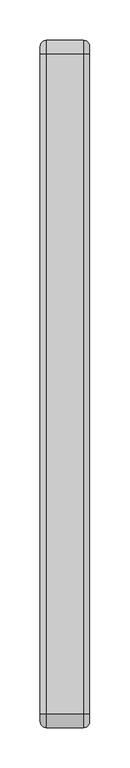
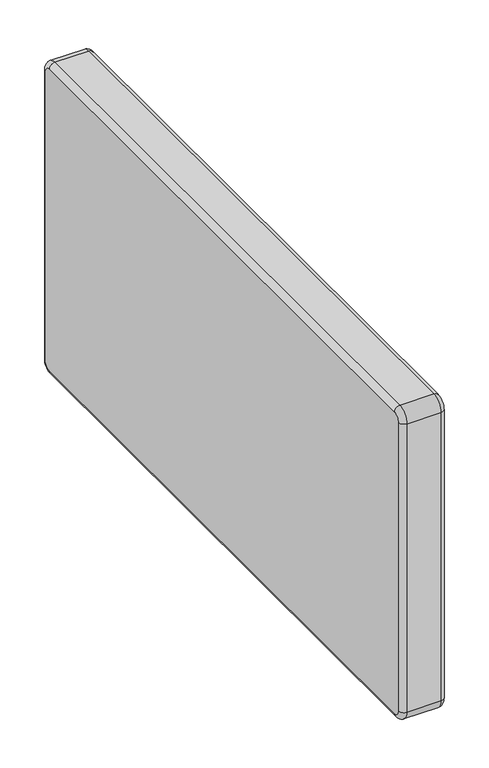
"""IFC4 building model written with IfcOpenShell, lengths in millimetres: furniture geometry, Fredericia - EJ220 Sofa 3 seaters 67 - 2233 : Fredericia - EJ220 Sofa 3 seaters 67 - 2233."""

from ifc_helpers import new_model, si_unit, point, frame, origin, place, context, project, spatial, circle_curve, ellipse_curve, trimmed, source, transform, mapped, element, save
from ifc_brep_helpers import plane_surface, cylinder_surface, revolved_surface, advanced_brep


def furniture_6027f4fa(model_context):
    return source(origin(), model_context, "Body", "AdvancedBrep", [
        advanced_brep(
        [(998.6320736, 7.0681487, 207.3057774), (998.6320736, 7.0681487, 623.8042203), (998.6320736, 16.6681487, 633.4042203), (998.6320736, 833.2580585, 633.4042203), (998.6320736, 842.8580585, 623.8042203), (998.6320736, 842.8580585, 207.3057774), (998.6320736, 833.2580585, 197.7057774), (998.6320736, 16.6681487, 197.7057774), (1060.0578822, 7.0681487, 623.8042203), (1060.0578822, 7.0681487, 207.3057774), (1060.0578822, 16.6681487, 197.7057774), (1060.0578822, 833.2580585, 197.7057774), (1060.0578822, 842.8580585, 207.3057774), (1060.0578822, 842.8580585, 623.8042203), (1060.0578822, 833.2580585, 633.4042203), (1060.0578822, 16.6681487, 633.4042203), (1006.1320736, -0.4318513, 207.3057774), (1006.1320736, -0.4318513, 623.8042203), (1052.5578822, -0.4318513, 207.3057774), (1052.5578822, -0.4318513, 623.8042203), (1006.1320736, 16.6681487, 640.9042203), (1006.1320736, 833.2580585, 640.9042203), (1052.5578822, 16.6681487, 640.9042203), (1052.5578822, 833.2580585, 640.9042203), (1006.1320736, 850.3580585, 623.8042203), (1006.1320736, 850.3580585, 207.3057774), (1052.5578822, 850.3580585, 623.8042203), (1052.5578822, 850.3580585, 207.3057774), (1006.1320736, 833.2580585, 190.2057774), (1006.1320736, 16.6681487, 190.2057774), (1052.5578822, 833.2580585, 190.2057774), (1052.5578822, 16.6681487, 190.2057774)],
        [
            (0, 1),
            (1, 2, circle_curve(frame((998.6320736, 16.6681487, 623.8042203), z_axis=(-1.0, 0.0, 0.0), x_axis=(0.0, -1.0, 0.0)), 9.6)),
            (2, 3),
            (3, 4, circle_curve(frame((998.6320736, 833.2580585, 623.8042203), z_axis=(-1.0, 0.0, 0.0), x_axis=(0.0, 0.0, 1.0)), 9.6)),
            (4, 5),
            (5, 6, circle_curve(frame((998.6320736, 833.2580585, 207.3057774), z_axis=(-1.0, 0.0, 0.0), x_axis=(0.0, 1.0, 0.0)), 9.6)),
            (6, 7),
            (7, 0, circle_curve(frame((998.6320736, 16.6681487, 207.3057774), z_axis=(-1.0, 0.0, 0.0), x_axis=(0.0, 0.0, -1.0)), 9.6)),
            (8, 9),
            (9, 10, circle_curve(frame((1060.0578822, 16.6681487, 207.3057774), z_axis=(1.0, 0.0, 0.0), x_axis=(0.0, 0.0, -1.0)), 9.6)),
            (10, 11),
            (11, 12, circle_curve(frame((1060.0578822, 833.2580585, 207.3057774), z_axis=(1.0, 0.0, 0.0), x_axis=(0.0, 1.0, 0.0)), 9.6)),
            (12, 13),
            (13, 14, circle_curve(frame((1060.0578822, 833.2580585, 623.8042203), z_axis=(1.0, 0.0, 0.0), x_axis=(0.0, 0.0, 1.0)), 9.6)),
            (14, 15),
            (15, 8, circle_curve(frame((1060.0578822, 16.6681487, 623.8042203), z_axis=(1.0, 0.0, 0.0), x_axis=(0.0, -1.0, 0.0)), 9.6)),
            (0, 16, circle_curve(frame((1006.1320736, 7.0681487, 207.3057774), z_axis=(0.0, 0.0, 1.0), x_axis=(0.0, 1.0, 0.0)), 7.5)),
            (16, 17),
            (17, 1, circle_curve(frame((1006.1320736, 7.0681487, 623.8042203), z_axis=(0.0, 0.0, -1.0), x_axis=(0.0, 1.0, 0.0)), 7.5)),
            (16, 18),
            (18, 19),
            (19, 17),
            (18, 9, circle_curve(frame((1052.5578822, 7.0681487, 207.3057774), z_axis=(0.0, 0.0, 1.0), x_axis=(0.0, 1.0, 0.0)), 7.5)),
            (8, 19, circle_curve(frame((1052.5578822, 7.0681487, 623.8042203), z_axis=(0.0, 0.0, -1.0), x_axis=(0.0, 1.0, 0.0)), 7.5)),
            (2, 20, circle_curve(frame((1006.1320736, 16.6681487, 633.4042203), z_axis=(0.0, 1.0, 0.0), x_axis=(0.0, 0.0, -1.0)), 7.5)),
            (20, 21),
            (21, 3, circle_curve(frame((1006.1320736, 833.2580585, 633.4042203), z_axis=(0.0, -1.0, 0.0), x_axis=(0.0, 0.0, -1.0)), 7.5)),
            (20, 22),
            (22, 23),
            (23, 21),
            (22, 15, circle_curve(frame((1052.5578822, 16.6681487, 633.4042203), z_axis=(0.0, 1.0, 0.0), x_axis=(0.0, 0.0, -1.0)), 7.5)),
            (14, 23, circle_curve(frame((1052.5578822, 833.2580585, 633.4042203), z_axis=(0.0, -1.0, 0.0), x_axis=(0.0, 0.0, -1.0)), 7.5)),
            (4, 24, circle_curve(frame((1006.1320736, 842.8580585, 623.8042203), z_axis=(0.0, 0.0, -1.0), x_axis=(0.0, -1.0, 0.0)), 7.5)),
            (24, 25),
            (25, 5, circle_curve(frame((1006.1320736, 842.8580585, 207.3057774), z_axis=(0.0, 0.0, 1.0), x_axis=(0.0, -1.0, 0.0)), 7.5)),
            (24, 26),
            (26, 27),
            (27, 25),
            (26, 13, circle_curve(frame((1052.5578822, 842.8580585, 623.8042203), z_axis=(0.0, 0.0, -1.0), x_axis=(0.0, -1.0, 0.0)), 7.5)),
            (12, 27, circle_curve(frame((1052.5578822, 842.8580585, 207.3057774), z_axis=(0.0, 0.0, 1.0), x_axis=(0.0, -1.0, 0.0)), 7.5)),
            (6, 28, circle_curve(frame((1006.1320736, 833.2580585, 197.7057774), z_axis=(0.0, -1.0, 0.0), x_axis=(0.0, 0.0, 1.0)), 7.5)),
            (28, 29),
            (29, 7, circle_curve(frame((1006.1320736, 16.6681487, 197.7057774), z_axis=(0.0, 1.0, 0.0), x_axis=(0.0, 0.0, 1.0)), 7.5)),
            (28, 30),
            (30, 31),
            (31, 29),
            (30, 11, circle_curve(frame((1052.5578822, 833.2580585, 197.7057774), z_axis=(0.0, -1.0, 0.0), x_axis=(0.0, 0.0, 1.0)), 7.5)),
            (10, 31, circle_curve(frame((1052.5578822, 16.6681487, 197.7057774), z_axis=(0.0, 1.0, 0.0), x_axis=(0.0, 0.0, 1.0)), 7.5)),
            (29, 16, circle_curve(frame((1006.1320736, 16.6681487, 207.3057774), z_axis=(-1.0, 0.0, 0.0), x_axis=(0.0, 0.0, -1.0)), 17.1)),
            (31, 18, circle_curve(frame((1052.5578822, 16.6681487, 207.3057774), z_axis=(-1.0, 0.0, 0.0), x_axis=(0.0, 0.0, -1.0)), 17.1)),
            (17, 20, circle_curve(frame((1006.1320736, 16.6681487, 623.8042203), z_axis=(-1.0, 0.0, 0.0), x_axis=(0.0, -1.0, 0.0)), 17.1)),
            (19, 22, circle_curve(frame((1052.5578822, 16.6681487, 623.8042203), z_axis=(-1.0, 0.0, 0.0), x_axis=(0.0, -1.0, 0.0)), 17.1)),
            (21, 24, circle_curve(frame((1006.1320736, 833.2580585, 623.8042203), z_axis=(-1.0, 0.0, 0.0), x_axis=(0.0, 0.0, 1.0)), 17.1)),
            (23, 26, circle_curve(frame((1052.5578822, 833.2580585, 623.8042203), z_axis=(-1.0, 0.0, 0.0), x_axis=(0.0, 0.0, 1.0)), 17.1)),
            (25, 28, circle_curve(frame((1006.1320736, 833.2580585, 207.3057774), z_axis=(-1.0, 0.0, 0.0), x_axis=(0.0, 1.0, 0.0)), 17.1)),
            (27, 30, circle_curve(frame((1052.5578822, 833.2580585, 207.3057774), z_axis=(-1.0, 0.0, 0.0), x_axis=(0.0, 1.0, 0.0)), 17.1)),
        ],
        [
            plane_surface(frame((998.6320736, 16.6681487, 621.7042203), z_axis=(-1.0, 0.0, 0.0), x_axis=(0.0, -1.0, 0.0))),
            plane_surface(frame((1060.0578822, 16.6681487, 621.7042203), z_axis=(1.0, 0.0, 0.0), x_axis=(0.0, 1.0, 0.0))),
            cylinder_surface(frame((1006.1320736, 7.0681487, 207.3057774), z_axis=(0.0, 0.0, -1.0), x_axis=(0.0, 1.0, 0.0)), 7.5),
            plane_surface(frame((1052.5578822, -0.4318513, 207.3057774), z_axis=(0.0, -1.0, 0.0), x_axis=(0.0, 0.0, 1.0))),
            cylinder_surface(frame((1052.5578822, 7.0681487, 207.3057774), z_axis=(0.0, 0.0, -1.0), x_axis=(0.0, 1.0, 0.0)), 7.5),
            cylinder_surface(frame((1006.1320736, 16.6681487, 633.4042203), z_axis=(0.0, -1.0, 0.0), x_axis=(0.0, 0.0, -1.0)), 7.5),
            plane_surface(frame((1052.5578822, 16.6681487, 640.9042203), z_axis=(0.0, 0.0, 1.0), x_axis=(0.0, 1.0, 0.0))),
            cylinder_surface(frame((1052.5578822, 16.6681487, 633.4042203), z_axis=(0.0, -1.0, 0.0), x_axis=(0.0, 0.0, -1.0)), 7.5),
            cylinder_surface(frame((1006.1320736, 842.8580585, 623.8042203), z_axis=(0.0, 0.0, 1.0), x_axis=(0.0, -1.0, 0.0)), 7.5),
            plane_surface(frame((1052.5578822, 850.3580585, 623.8042203), z_axis=(0.0, 1.0, 0.0), x_axis=(0.0, 0.0, -1.0))),
            cylinder_surface(frame((1052.5578822, 842.8580585, 623.8042203), z_axis=(0.0, 0.0, 1.0), x_axis=(0.0, -1.0, 0.0)), 7.5),
            cylinder_surface(frame((1006.1320736, 833.2580585, 197.7057774), z_axis=(0.0, 1.0, 0.0), x_axis=(0.0, 0.0, 1.0)), 7.5),
            plane_surface(frame((1052.5578822, 833.2580585, 190.2057774), z_axis=(0.0, 0.0, -1.0), x_axis=(0.0, -1.0, 0.0))),
            cylinder_surface(frame((1052.5578822, 833.2580585, 197.7057774), z_axis=(0.0, 1.0, 0.0), x_axis=(0.0, 0.0, 1.0)), 7.5),
            revolved_surface(trimmed(ellipse_curve(frame((1006.1320736, 16.6681487, 197.7057774), z_axis=(0.0, 1.0, 0.0), x_axis=(0.0, 0.0, 1.0)), 7.5, 7.5), [point((1006.1320736, 16.6681487, 190.2057774))], [point((998.6320736, 16.6681487, 197.7057774))], True, "CARTESIAN"), (1060.0578822, 16.6681487, 207.3057774), (-1.0, 0.0, 0.0)),
            cylinder_surface(frame((1060.0578822, 16.6681487, 207.3057774), z_axis=(-1.0, 0.0, 0.0), x_axis=(0.0, 0.0, -1.0)), 17.1),
            revolved_surface(trimmed(ellipse_curve(frame((1052.5578822, 16.6681487, 197.7057774), z_axis=(0.0, 1.0, 0.0), x_axis=(0.0, 0.0, 1.0)), 7.5, 7.5), [point((1060.0578822, 16.6681487, 197.7057774))], [point((1052.5578822, 16.6681487, 190.2057774))], True, "CARTESIAN"), (1060.0578822, 16.6681487, 207.3057774), (-1.0, 0.0, 0.0)),
            revolved_surface(trimmed(ellipse_curve(frame((1006.1320736, 7.0681487, 623.8042203), z_axis=(0.0, 0.0, -1.0), x_axis=(0.0, 1.0, 0.0)), 7.5, 7.5), [point((1006.1320736, -0.4318513, 623.8042203))], [point((998.6320736, 7.0681487, 623.8042203))], True, "CARTESIAN"), (1060.0578822, 16.6681487, 623.8042203), (-1.0, 0.0, 0.0)),
            cylinder_surface(frame((1060.0578822, 16.6681487, 623.8042203), z_axis=(-1.0, 0.0, 0.0), x_axis=(0.0, -1.0, 0.0)), 17.1),
            revolved_surface(trimmed(ellipse_curve(frame((1052.5578822, 7.0681487, 623.8042203), z_axis=(0.0, 0.0, -1.0), x_axis=(0.0, 1.0, 0.0)), 7.5, 7.5), [point((1060.0578822, 7.0681487, 623.8042203))], [point((1052.5578822, -0.4318513, 623.8042203))], True, "CARTESIAN"), (1060.0578822, 16.6681487, 623.8042203), (-1.0, 0.0, 0.0)),
            revolved_surface(trimmed(ellipse_curve(frame((1006.1320736, 833.2580585, 633.4042203), z_axis=(0.0, -1.0, 0.0), x_axis=(0.0, 0.0, -1.0)), 7.5, 7.5), [point((1006.1320736, 833.2580585, 640.9042203))], [point((998.6320736, 833.2580585, 633.4042203))], True, "CARTESIAN"), (1060.0578822, 833.2580585, 623.8042203), (-1.0, 0.0, 0.0)),
            cylinder_surface(frame((1060.0578822, 833.2580585, 623.8042203), z_axis=(-1.0, 0.0, 0.0), x_axis=(0.0, 0.0, 1.0)), 17.1),
            revolved_surface(trimmed(ellipse_curve(frame((1052.5578822, 833.2580585, 633.4042203), z_axis=(0.0, -1.0, 0.0), x_axis=(0.0, 0.0, -1.0)), 7.5, 7.5), [point((1060.0578822, 833.2580585, 633.4042203))], [point((1052.5578822, 833.2580585, 640.9042203))], True, "CARTESIAN"), (1060.0578822, 833.2580585, 623.8042203), (-1.0, 0.0, 0.0)),
            revolved_surface(trimmed(ellipse_curve(frame((1006.1320736, 842.8580585, 207.3057774), z_axis=(0.0, 0.0, 1.0), x_axis=(0.0, -1.0, 0.0)), 7.5, 7.5), [point((1006.1320736, 850.3580585, 207.3057774))], [point((998.6320736, 842.8580585, 207.3057774))], True, "CARTESIAN"), (1060.0578822, 833.2580585, 207.3057774), (-1.0, 0.0, 0.0)),
            cylinder_surface(frame((1060.0578822, 833.2580585, 207.3057774), z_axis=(-1.0, 0.0, 0.0), x_axis=(0.0, 1.0, 0.0)), 17.1),
            revolved_surface(trimmed(ellipse_curve(frame((1052.5578822, 842.8580585, 207.3057774), z_axis=(0.0, 0.0, 1.0), x_axis=(0.0, -1.0, 0.0)), 7.5, 7.5), [point((1060.0578822, 842.8580585, 207.3057774))], [point((1052.5578822, 850.3580585, 207.3057774))], True, "CARTESIAN"), (1060.0578822, 833.2580585, 207.3057774), (-1.0, 0.0, 0.0)),
        ],
        [
            (0, [[1, 2, 3, 4, 5, 6, 7, 8]]),
            (1, [[9, 10, 11, 12, 13, 14, 15, 16]]),
            (2, [[17, 18, 19, -1]]),
            (3, [[-18, 20, 21, 22]]),
            (4, [[-21, 23, -9, 24]]),
            (5, [[25, 26, 27, -3]]),
            (6, [[-26, 28, 29, 30]]),
            (7, [[-29, 31, -15, 32]]),
            (8, [[33, 34, 35, -5]]),
            (9, [[-34, 36, 37, 38]]),
            (10, [[-37, 39, -13, 40]]),
            (11, [[41, 42, 43, -7]]),
            (12, [[-42, 44, 45, 46]]),
            (13, [[-45, 47, -11, 48]]),
            (14, [[-17, -8, -43, 49]]),
            (15, [[-20, -49, -46, 50]]),
            (16, [[-23, -50, -48, -10]]),
            (17, [[-19, 51, -25, -2]]),
            (18, [[-22, 52, -28, -51]]),
            (19, [[-24, -16, -31, -52]]),
            (20, [[-27, 53, -33, -4]]),
            (21, [[-30, 54, -36, -53]]),
            (22, [[-32, -14, -39, -54]]),
            (23, [[-35, 55, -41, -6]]),
            (24, [[-38, 56, -44, -55]]),
            (25, [[-40, -12, -47, -56]]),
        ],
    ),
    ])


if __name__ == "__main__":
    model = new_model("IFC4")
    model_context = context("Model", 3, world=origin())
    ifc_project = project(units=[si_unit("LENGTHUNIT", "METRE", prefix="MILLI")], contexts=[model_context])
    site = spatial("IfcSite", under=ifc_project)
    building = spatial("IfcBuilding", under=site)
    placement = place(None, origin())
    furniture_shape = furniture_6027f4fa(model_context)
    element("IfcFurniture", 1, ObjectType="Fredericia - EJ220 Sofa 3 seaters 67 - 2233 : Fredericia - EJ220 Sofa 3 seaters 67 - 2233", at=placement, inside=building, context=model_context, shape_type="MappedRepresentation", body=[
        mapped(furniture_shape, transform((0.0, 0.0, 0.0), x_axis=(1.0, 0.0, 0.0), y_axis=(0.0, 1.0, 0.0), z_axis=(0.0, 0.0, 1.0))),
    ])
    save(model, "model.ifc")
